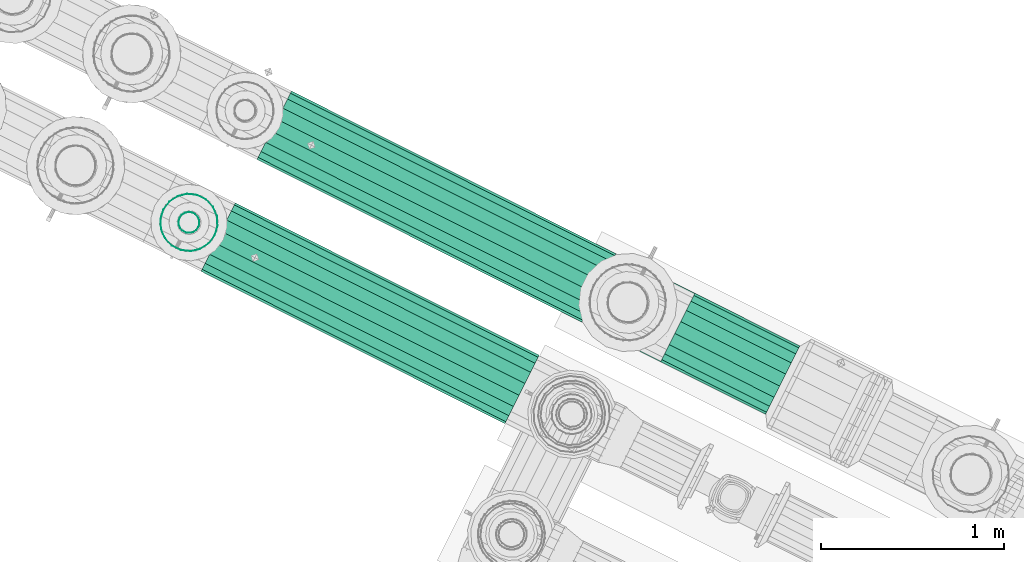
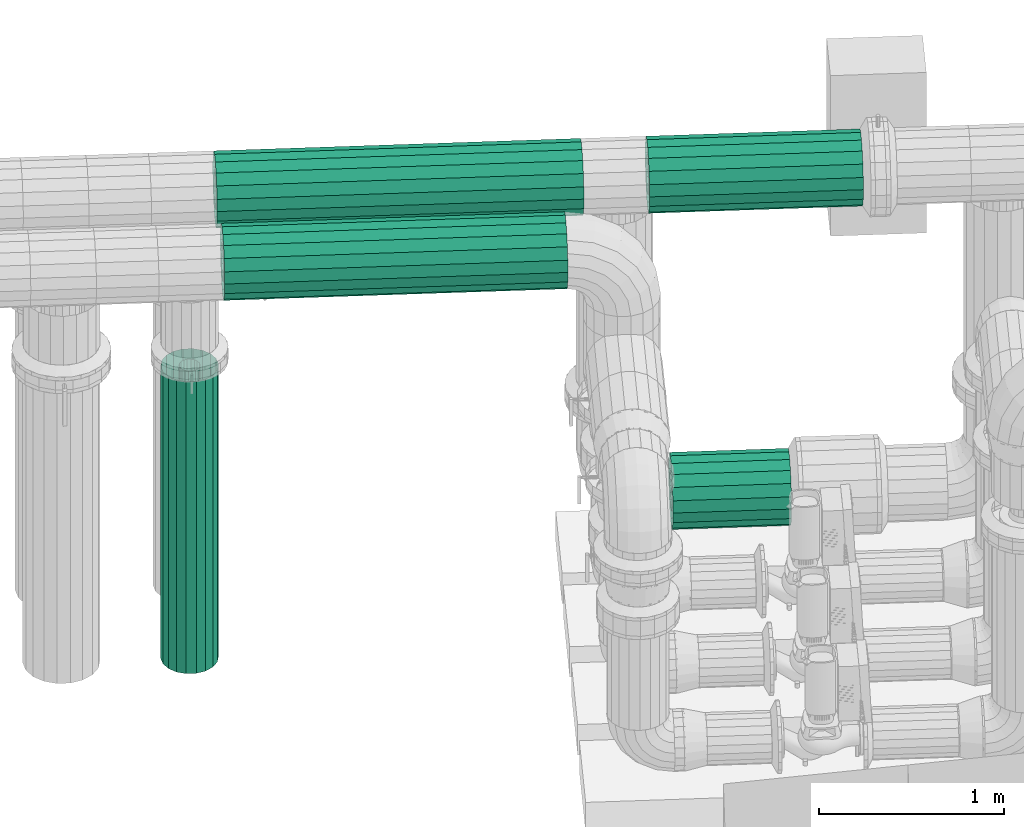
# One storey, part 13 of 152: 5 flow segments.
"""IFC2X3 building model written with IfcOpenShell, lengths in metres."""

from ifc_helpers import new_model, si_unit, derived_unit, direction, frame, origin, place, context, subcontext, project, spatial, face_set, surface_model, source, transform, mapped, material, type_object, type_shapes, element, save


model = new_model("IFC2X3")

# Units and contexts
model_context = context("Model", 3, precision=5.2338327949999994e-05, world=origin(), true_north=direction((0.0, 1.0)))
body_context = subcontext(model_context, "Body", "Model", "MODEL_VIEW")
ifc_project = project(units=[si_unit("LENGTHUNIT", "METRE"), si_unit("AREAUNIT", "SQUARE_METRE"), si_unit("VOLUMEUNIT", "CUBIC_METRE"), si_unit("MASSUNIT", "GRAM", prefix="KILO"), si_unit("PLANEANGLEUNIT", "RADIAN"), derived_unit("THERMALTRANSMITTANCEUNIT", [(si_unit("MASSUNIT", "GRAM", prefix="KILO"), 1), (si_unit("THERMODYNAMICTEMPERATUREUNIT", "KELVIN"), -1), (si_unit("TIMEUNIT", "SECOND"), -3)])], contexts=[model_context])

# Site, building, storey
site_placement = place(None, frame((0.0, 0.0, 0.0), z_axis=(0.0, 0.0, 1.0), x_axis=(0.8939966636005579, -0.4480736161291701, 0.0)))
site = spatial("IfcSite", under=ifc_project, at=site_placement, Name="Default", CompositionType="ELEMENT")
building_placement = place(site_placement, origin())
building = spatial("IfcBuilding", under=site, at=building_placement, CompositionType="ELEMENT")
storey_placement = place(building_placement, frame((0.0, 0.0, 2.7499999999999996)))
storey = spatial("IfcBuildingStorey", under=building, at=storey_placement, Name="1. Obergeschoss", CompositionType="ELEMENT", Elevation=2.7499999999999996)

# Flow segments
ifc_material_1 = material(Name="IfcSurfaceStyle #1741")
distribution_element_type_1 = type_object("IfcDistributionElementType", Name="Stahlrohr nach DIN 2448 224428:Stahlrohr nach DIN 2448 224428", material=ifc_material_1)
shared_shape_1 = source(origin(), body_context, "Body", "SurfaceModel", [
    surface_model("IfcFaceBasedSurfaceModel", [(9.803770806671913, 8.121758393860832, 5.553028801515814), (9.803770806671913, 8.11515172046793, 5.590497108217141), (10.962653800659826, 8.115151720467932, 5.590497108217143), (10.962653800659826, 8.121758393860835, 5.553028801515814), (9.803770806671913, 8.096128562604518, 5.623446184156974), (10.962653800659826, 8.09612856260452, 5.623446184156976), (9.803770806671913, 8.066983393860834, 5.647901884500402), (10.962653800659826, 8.066983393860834, 5.647901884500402), (9.803770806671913, 8.03123155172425, 5.660914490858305), (10.962653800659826, 8.031231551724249, 5.660914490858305), (9.803770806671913, 7.9931852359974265, 5.660914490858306), (10.962653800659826, 7.993185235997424, 5.660914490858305), (9.803770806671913, 7.9574333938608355, 5.6479018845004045), (10.962653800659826, 7.957433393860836, 5.647901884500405), (9.803770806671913, 7.928288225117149, 5.623446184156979), (10.962653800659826, 7.92828822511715, 5.623446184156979), (9.803770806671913, 7.909265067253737, 5.590497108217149), (10.962653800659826, 7.909265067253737, 5.590497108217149), (9.803770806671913, 7.902658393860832, 5.553028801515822), (10.962653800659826, 7.902658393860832, 5.553028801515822), (9.803770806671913, 7.909265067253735, 5.515560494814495), (10.962653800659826, 7.909265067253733, 5.515560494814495), (9.803770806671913, 7.928288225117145, 5.482611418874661), (10.962653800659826, 7.928288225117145, 5.4826114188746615), (9.803770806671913, 7.957433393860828, 5.458155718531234), (10.962653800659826, 7.957433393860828, 5.458155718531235), (9.803770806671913, 7.993185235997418, 5.445143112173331), (10.962653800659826, 7.993185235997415, 5.445143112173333), (9.803770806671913, 8.031231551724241, 5.44514311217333), (10.962653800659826, 8.031231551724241, 5.44514311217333), (9.803770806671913, 8.066983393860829, 5.458155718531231), (10.962653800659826, 8.066983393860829, 5.4581557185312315), (9.803770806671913, 8.096128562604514, 5.482611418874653), (10.962653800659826, 8.096128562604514, 5.482611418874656), (9.803770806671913, 8.115151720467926, 5.515560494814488), (10.962653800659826, 8.115151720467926, 5.515560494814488), (9.803770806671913, 8.221758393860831, 5.553028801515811), (9.803770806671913, 8.209120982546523, 5.6246991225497), (10.962653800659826, 8.209120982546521, 5.624699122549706), (10.962653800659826, 8.221758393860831, 5.553028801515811), (9.803770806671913, 8.172733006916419, 5.687724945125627), (10.962653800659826, 8.172733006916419, 5.687724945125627), (9.803770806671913, 8.116983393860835, 5.734504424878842), (10.962653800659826, 8.116983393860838, 5.7345044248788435), (9.803770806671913, 8.048596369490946, 5.759395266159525), (10.962653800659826, 8.048596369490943, 5.759395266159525), (9.803770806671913, 7.975820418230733, 5.759395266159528), (10.962653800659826, 7.975820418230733, 5.759395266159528), (9.803770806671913, 7.90743339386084, 5.7345044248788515), (10.962653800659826, 7.90743339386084, 5.7345044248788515), (9.803770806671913, 7.851683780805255, 5.687724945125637), (10.962653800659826, 7.851683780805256, 5.6877249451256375), (9.803770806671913, 7.815295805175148, 5.6246991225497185), (10.962653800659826, 7.815295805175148, 5.624699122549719), (9.803770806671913, 7.802658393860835, 5.553028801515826), (10.962653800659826, 7.802658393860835, 5.553028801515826), (9.803770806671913, 7.815295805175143, 5.48135848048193), (10.962653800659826, 7.815295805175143, 5.481358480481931), (9.803770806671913, 7.851683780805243, 5.418332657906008), (10.962653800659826, 7.851683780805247, 5.418332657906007), (9.803770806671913, 7.907433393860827, 5.3715531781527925), (10.962653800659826, 7.907433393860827, 5.3715531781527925), (9.803770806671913, 7.97582041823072, 5.346662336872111), (10.962653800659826, 7.975820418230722, 5.34666233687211), (9.803770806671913, 8.04859636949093, 5.346662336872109), (10.962653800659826, 8.04859636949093, 5.346662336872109), (9.803770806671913, 8.116983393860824, 5.3715531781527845), (10.962653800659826, 8.116983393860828, 5.3715531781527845), (9.803770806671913, 8.172733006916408, 5.418332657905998), (10.962653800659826, 8.172733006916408, 5.418332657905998), (9.803770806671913, 8.209120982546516, 5.4813584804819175), (10.962653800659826, 8.209120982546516, 5.4813584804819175)], [face_set([[[0, 1, 2, 3]], [[1, 4, 5, 2]], [[4, 6, 7, 5]], [[6, 8, 9, 7]], [[8, 10, 11, 9]], [[10, 12, 13, 11]], [[12, 14, 15, 13]], [[14, 16, 17, 15]], [[16, 18, 19, 17]], [[18, 20, 21, 19]], [[20, 22, 23, 21]], [[22, 24, 25, 23]], [[24, 26, 27, 25]], [[26, 28, 29, 27]], [[28, 30, 31, 29]], [[30, 32, 33, 31]], [[32, 34, 35, 33]], [[34, 0, 3, 35]], [[36, 37, 38, 39]], [[37, 40, 41, 38]], [[40, 42, 43, 41]], [[42, 44, 45, 43]], [[44, 46, 47, 45]], [[46, 48, 49, 47]], [[48, 50, 51, 49]], [[50, 52, 53, 51]], [[52, 54, 55, 53]], [[54, 56, 57, 55]], [[56, 58, 59, 57]], [[58, 60, 61, 59]], [[60, 62, 63, 61]], [[62, 64, 65, 63]], [[64, 66, 67, 65]], [[66, 68, 69, 67]], [[68, 70, 71, 69]], [[70, 36, 39, 71]]])]),
])
type_shapes(distribution_element_type_1, [shared_shape_1])
flow_segment_1_placement = place(storey_placement, frame((0.0, 0.0, -2.7499999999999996)))
element("IfcFlowSegment", 1, at=flow_segment_1_placement, inside=storey, type_object=distribution_element_type_1, material=ifc_material_1, Name="Stahlrohr nach DIN 2448", ObjectType="Stahlrohr nach DIN 2448", context=body_context, shape_type="MappedRepresentation", body=[
    mapped(shared_shape_1, transform((0.0, 0.0, 0.0), scale=1.0)),
])
distribution_element_type_2 = type_object("IfcDistributionElementType", Name="Stahlrohr nach DIN 2448 224709:Stahlrohr nach DIN 2448 224709", material=ifc_material_1)
shared_shape_2 = source(origin(), body_context, "Body", "SurfaceModel", [
    surface_model("IfcFaceBasedSurfaceModel", [(9.930770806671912, 7.902658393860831, 3.459870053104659), (9.930770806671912, 7.909265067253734, 3.422401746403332), (10.573653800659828, 7.909265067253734, 3.422401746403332), (10.573653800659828, 7.902658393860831, 3.459870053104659), (9.930770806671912, 7.928288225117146, 3.389452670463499), (10.573653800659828, 7.928288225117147, 3.3894526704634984), (9.930770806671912, 7.957433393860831, 3.3649969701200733), (10.573653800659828, 7.957433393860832, 3.3649969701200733), (9.930770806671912, 7.993185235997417, 3.351984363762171), (10.573653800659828, 7.9931852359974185, 3.3519843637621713), (9.930770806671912, 8.03123155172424, 3.351984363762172), (10.573653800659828, 8.031231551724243, 3.351984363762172), (9.930770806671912, 8.06698339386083, 3.3649969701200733), (10.573653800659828, 8.06698339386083, 3.3649969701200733), (9.930770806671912, 8.096128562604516, 3.3894526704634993), (10.573653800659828, 8.096128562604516, 3.3894526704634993), (9.930770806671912, 8.115151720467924, 3.4224017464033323), (10.573653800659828, 8.115151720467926, 3.4224017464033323), (9.930770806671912, 8.121758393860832, 3.4598700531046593), (10.573653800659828, 8.121758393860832, 3.4598700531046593), (9.930770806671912, 8.115151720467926, 3.4973383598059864), (10.573653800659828, 8.115151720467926, 3.497338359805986), (9.930770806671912, 8.096128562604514, 3.5302874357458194), (10.573653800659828, 8.096128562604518, 3.5302874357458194), (9.930770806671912, 8.06698339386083, 3.554743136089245), (10.573653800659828, 8.06698339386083, 3.554743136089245), (9.930770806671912, 8.031231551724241, 3.567755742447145), (10.573653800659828, 8.031231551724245, 3.567755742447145), (9.930770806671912, 7.9931852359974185, 3.5677557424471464), (10.573653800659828, 7.9931852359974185, 3.5677557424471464), (9.930770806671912, 7.957433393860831, 3.554743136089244), (10.573653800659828, 7.957433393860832, 3.554743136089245), (9.930770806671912, 7.928288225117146, 3.53028743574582), (10.573653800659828, 7.928288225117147, 3.5302874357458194), (9.930770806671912, 7.909265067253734, 3.497338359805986), (10.573653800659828, 7.909265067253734, 3.497338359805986), (9.930770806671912, 7.802658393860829, 3.459870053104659), (9.930770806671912, 7.81529580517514, 3.3881997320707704), (10.573653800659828, 7.815295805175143, 3.3881997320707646), (10.573653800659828, 7.802658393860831, 3.459870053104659), (9.930770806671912, 7.8516837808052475, 3.325173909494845), (10.573653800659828, 7.851683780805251, 3.3251739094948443), (9.930770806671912, 7.907433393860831, 3.2783944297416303), (10.573653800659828, 7.907433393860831, 3.2783944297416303), (9.930770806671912, 7.975820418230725, 3.2535035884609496), (10.573653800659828, 7.975820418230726, 3.2535035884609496), (9.930770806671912, 8.048596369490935, 3.253503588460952), (10.573653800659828, 8.048596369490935, 3.2535035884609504), (9.930770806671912, 8.11698339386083, 3.2783944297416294), (10.573653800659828, 8.11698339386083, 3.2783944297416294), (9.930770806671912, 8.172733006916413, 3.3251739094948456), (10.573653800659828, 8.172733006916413, 3.3251739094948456), (9.930770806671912, 8.209120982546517, 3.3881997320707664), (10.573653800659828, 8.209120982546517, 3.3881997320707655), (9.930770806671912, 8.22175839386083, 3.4598700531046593), (10.573653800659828, 8.22175839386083, 3.4598700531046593), (9.930770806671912, 8.20912098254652, 3.531540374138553), (10.573653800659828, 8.209120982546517, 3.5315403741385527), (9.930770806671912, 8.172733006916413, 3.5945661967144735), (10.573653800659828, 8.172733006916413, 3.5945661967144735), (9.930770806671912, 8.11698339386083, 3.641345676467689), (10.573653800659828, 8.11698339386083, 3.6413456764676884), (9.930770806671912, 8.048596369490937, 3.666236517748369), (10.573653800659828, 8.048596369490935, 3.6662365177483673), (9.930770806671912, 7.975820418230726, 3.6662365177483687), (10.573653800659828, 7.975820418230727, 3.6662365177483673), (9.930770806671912, 7.90743339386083, 3.6413456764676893), (10.573653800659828, 7.907433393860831, 3.6413456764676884), (9.930770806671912, 7.8516837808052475, 3.5945661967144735), (10.573653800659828, 7.85168378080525, 3.594566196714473), (9.930770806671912, 7.815295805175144, 3.531540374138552), (10.573653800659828, 7.815295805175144, 3.531540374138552)], [face_set([[[0, 1, 2, 3]], [[1, 4, 5, 2]], [[4, 6, 7, 5]], [[6, 8, 9, 7]], [[8, 10, 11, 9]], [[10, 12, 13, 11]], [[12, 14, 15, 13]], [[14, 16, 17, 15]], [[16, 18, 19, 17]], [[18, 20, 21, 19]], [[20, 22, 23, 21]], [[22, 24, 25, 23]], [[24, 26, 27, 25]], [[26, 28, 29, 27]], [[28, 30, 31, 29]], [[30, 32, 33, 31]], [[32, 34, 35, 33]], [[34, 0, 3, 35]], [[36, 37, 38, 39]], [[37, 40, 41, 38]], [[40, 42, 43, 41]], [[42, 44, 45, 43]], [[44, 46, 47, 45]], [[46, 48, 49, 47]], [[48, 50, 51, 49]], [[50, 52, 53, 51]], [[52, 54, 55, 53]], [[54, 56, 57, 55]], [[56, 58, 59, 57]], [[58, 60, 61, 59]], [[60, 62, 63, 61]], [[62, 64, 65, 63]], [[64, 66, 67, 65]], [[66, 68, 69, 67]], [[68, 70, 71, 69]], [[70, 36, 39, 71]]])]),
])
type_shapes(distribution_element_type_2, [shared_shape_2])
flow_segment_2_placement = place(storey_placement, frame((0.0, 0.0, -2.7499999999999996)))
element("IfcFlowSegment", 2, at=flow_segment_2_placement, inside=storey, type_object=distribution_element_type_2, material=ifc_material_1, Name="Stahlrohr nach DIN 2448", ObjectType="Stahlrohr nach DIN 2448", context=body_context, shape_type="MappedRepresentation", body=[
    mapped(shared_shape_2, transform((0.0, 0.0, 0.0), scale=1.0)),
])
ifc_material_2 = material(Name="IfcSurfaceStyle #9317")
distribution_element_type_3 = type_object("IfcDistributionElementType", Name="Stahlrohr nach DIN 2448 240348:Stahlrohr nach DIN 2448 240348", material=ifc_material_2)
shared_shape_3 = source(origin(), body_context, "Body", "SurfaceModel", [
    surface_model("IfcFaceBasedSurfaceModel", [(7.460618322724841, 7.436758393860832, 5.553028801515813), (7.460618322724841, 7.43015172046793, 5.59049710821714), (9.320770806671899, 7.430151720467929, 5.59049710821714), (9.320770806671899, 7.436758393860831, 5.553028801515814), (7.460618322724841, 7.411128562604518, 5.623446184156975), (9.320770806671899, 7.411128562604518, 5.623446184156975), (7.460618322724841, 7.381983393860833, 5.6479018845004), (9.320770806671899, 7.381983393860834, 5.6479018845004), (7.460618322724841, 7.346231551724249, 5.660914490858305), (9.320770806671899, 7.346231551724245, 5.660914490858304), (7.460618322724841, 7.308185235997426, 5.660914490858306), (9.320770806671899, 7.308185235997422, 5.660914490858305), (7.460618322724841, 7.272433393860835, 5.6479018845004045), (9.320770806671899, 7.272433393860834, 5.6479018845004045), (7.460618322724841, 7.243288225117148, 5.623446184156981), (9.320770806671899, 7.243288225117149, 5.623446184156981), (7.460618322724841, 7.224265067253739, 5.590497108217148), (9.320770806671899, 7.224265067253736, 5.590497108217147), (7.460618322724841, 7.217658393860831, 5.553028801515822), (9.320770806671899, 7.217658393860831, 5.553028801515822), (7.460618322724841, 7.224265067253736, 5.515560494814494), (9.320770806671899, 7.224265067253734, 5.515560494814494), (7.460618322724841, 7.243288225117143, 5.482611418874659), (9.320770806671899, 7.243288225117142, 5.4826114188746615), (7.460618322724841, 7.272433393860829, 5.458155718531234), (9.320770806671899, 7.272433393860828, 5.458155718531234), (7.460618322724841, 7.308185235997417, 5.445143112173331), (9.320770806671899, 7.308185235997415, 5.445143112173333), (7.460618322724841, 7.346231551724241, 5.44514311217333), (9.320770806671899, 7.34623155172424, 5.445143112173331), (7.460618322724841, 7.3819833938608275, 5.4581557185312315), (9.320770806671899, 7.3819833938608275, 5.4581557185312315), (7.460618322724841, 7.411128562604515, 5.482611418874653), (9.320770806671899, 7.411128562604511, 5.482611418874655), (7.460618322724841, 7.430151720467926, 5.515560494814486), (9.320770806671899, 7.430151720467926, 5.515560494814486), (7.460618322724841, 7.536758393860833, 5.5530288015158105), (7.460618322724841, 7.524120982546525, 5.6246991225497), (9.320770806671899, 7.524120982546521, 5.624699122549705), (9.320770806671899, 7.53675839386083, 5.553028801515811), (7.460618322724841, 7.48773300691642, 5.687724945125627), (9.320770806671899, 7.487733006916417, 5.687724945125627), (7.460618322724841, 7.431983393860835, 5.734504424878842), (9.320770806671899, 7.431983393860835, 5.734504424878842), (7.460618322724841, 7.363596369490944, 5.759395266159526), (9.320770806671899, 7.363596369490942, 5.759395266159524), (7.460618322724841, 7.290820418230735, 5.759395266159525), (9.320770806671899, 7.290820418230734, 5.759395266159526), (7.460618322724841, 7.222433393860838, 5.734504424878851), (9.320770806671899, 7.222433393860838, 5.734504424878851), (7.460618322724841, 7.166683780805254, 5.687724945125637), (9.320770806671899, 7.166683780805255, 5.6877249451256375), (7.460618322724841, 7.130295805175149, 5.624699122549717), (9.320770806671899, 7.130295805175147, 5.624699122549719), (7.460618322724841, 7.117658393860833, 5.553028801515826), (9.320770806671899, 7.1176583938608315, 5.553028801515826), (7.460618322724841, 7.130295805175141, 5.48135848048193), (9.320770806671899, 7.130295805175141, 5.48135848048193), (7.460618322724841, 7.1666837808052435, 5.418332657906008), (9.320770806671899, 7.166683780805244, 5.418332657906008), (7.460618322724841, 7.222433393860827, 5.371553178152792), (9.320770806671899, 7.222433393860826, 5.3715531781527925), (7.460618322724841, 7.2908204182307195, 5.346662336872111), (9.320770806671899, 7.2908204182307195, 5.346662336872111), (7.460618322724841, 7.363596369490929, 5.346662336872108), (9.320770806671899, 7.363596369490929, 5.346662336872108), (7.460618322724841, 7.431983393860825, 5.371553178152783), (9.320770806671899, 7.431983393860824, 5.3715531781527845), (7.460618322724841, 7.487733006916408, 5.4183326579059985), (9.320770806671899, 7.487733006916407, 5.418332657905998), (7.460618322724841, 7.524120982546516, 5.4813584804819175), (9.320770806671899, 7.524120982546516, 5.4813584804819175)], [face_set([[[0, 1, 2, 3]], [[1, 4, 5, 2]], [[4, 6, 7, 5]], [[6, 8, 9, 7]], [[8, 10, 11, 9]], [[10, 12, 13, 11]], [[12, 14, 15, 13]], [[14, 16, 17, 15]], [[16, 18, 19, 17]], [[18, 20, 21, 19]], [[20, 22, 23, 21]], [[22, 24, 25, 23]], [[24, 26, 27, 25]], [[26, 28, 29, 27]], [[28, 30, 31, 29]], [[30, 32, 33, 31]], [[32, 34, 35, 33]], [[34, 0, 3, 35]], [[36, 37, 38, 39]], [[37, 40, 41, 38]], [[40, 42, 43, 41]], [[42, 44, 45, 43]], [[44, 46, 47, 45]], [[46, 48, 49, 47]], [[48, 50, 51, 49]], [[50, 52, 53, 51]], [[52, 54, 55, 53]], [[54, 56, 57, 55]], [[56, 58, 59, 57]], [[58, 60, 61, 59]], [[60, 62, 63, 61]], [[62, 64, 65, 63]], [[64, 66, 67, 65]], [[66, 68, 69, 67]], [[68, 70, 71, 69]], [[70, 36, 39, 71]]])]),
])
type_shapes(distribution_element_type_3, [shared_shape_3])
flow_segment_3_placement = place(storey_placement, frame((0.0, 0.0, -2.7499999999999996)))
element("IfcFlowSegment", 3, at=flow_segment_3_placement, inside=storey, type_object=distribution_element_type_3, material=ifc_material_2, Name="Stahlrohr nach DIN 2448", ObjectType="Stahlrohr nach DIN 2448", context=body_context, shape_type="MappedRepresentation", body=[
    mapped(shared_shape_3, transform((0.0, 0.0, 0.0), scale=1.0)),
])
distribution_element_type_4 = type_object("IfcDistributionElementType", Name="Stahlrohr nach DIN 2448 246640:Stahlrohr nach DIN 2448 246640", material=ifc_material_2)
shared_shape_4 = source(origin(), body_context, "Body", "SurfaceModel", [
    surface_model("IfcFaceBasedSurfaceModel", [(7.3397683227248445, 7.3272083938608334, 4.878622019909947), (7.336321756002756, 7.30766194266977, 4.878622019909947), (7.336321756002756, 7.307661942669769, 2.95), (7.339768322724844, 7.327208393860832, 2.95), (7.326397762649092, 7.290473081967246, 4.878622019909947), (7.32639776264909, 7.290473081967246, 2.95), (7.3111933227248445, 7.2777150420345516, 4.878622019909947), (7.31119332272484, 7.277715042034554, 2.95), (7.292542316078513, 7.270926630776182, 4.878622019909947), (7.292542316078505, 7.2709266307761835, 2.95), (7.27269432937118, 7.270926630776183, 4.878622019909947), (7.272694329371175, 7.270926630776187, 2.95), (7.254043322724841, 7.27771504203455, 4.878622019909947), (7.254043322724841, 7.277715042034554, 2.95), (7.238838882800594, 7.290473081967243, 4.878622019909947), (7.238838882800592, 7.290473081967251, 2.95), (7.228914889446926, 7.307661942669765, 4.878622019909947), (7.228914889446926, 7.307661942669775, 2.95), (7.2254683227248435, 7.327208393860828, 4.878622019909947), (7.225468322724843, 7.327208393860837, 2.95), (7.228914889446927, 7.346754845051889, 4.878622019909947), (7.228914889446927, 7.3467548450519, 2.95), (7.238838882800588, 7.363943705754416, 4.878622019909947), (7.238838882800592, 7.363943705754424, 2.95), (7.254043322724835, 7.376701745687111, 4.878622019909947), (7.254043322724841, 7.376701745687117, 2.95), (7.272694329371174, 7.383490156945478, 4.878622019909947), (7.272694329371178, 7.383490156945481, 2.95), (7.292542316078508, 7.383490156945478, 4.878622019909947), (7.292542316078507, 7.3834901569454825, 2.95), (7.31119332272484, 7.376701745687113, 4.878622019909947), (7.311193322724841, 7.376701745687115, 2.95), (7.326397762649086, 7.363943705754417, 4.878622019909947), (7.3263977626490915, 7.363943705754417, 2.95), (7.336321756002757, 7.346754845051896, 4.878622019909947), (7.336321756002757, 7.346754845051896, 2.95), (7.439768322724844, 7.327208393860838, 4.878622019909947), (7.430291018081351, 7.273459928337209, 4.878622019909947), (7.4302910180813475, 7.273459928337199, 2.95), (7.4397683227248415, 7.327208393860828, 2.95), (7.403002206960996, 7.226194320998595, 4.878622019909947), (7.403002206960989, 7.226194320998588, 2.95), (7.361193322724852, 7.191112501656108, 4.878622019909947), (7.36119332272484, 7.191112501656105, 2.95), (7.309907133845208, 7.172445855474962, 4.878622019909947), (7.309907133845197, 7.172445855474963, 2.95), (7.255329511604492, 7.172445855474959, 4.878622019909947), (7.255329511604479, 7.172445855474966, 2.95), (7.204043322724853, 7.1911125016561, 4.878622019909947), (7.204043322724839, 7.19111250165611, 2.95), (7.162234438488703, 7.226194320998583, 4.878622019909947), (7.162234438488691, 7.226194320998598, 2.95), (7.13494562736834, 7.273459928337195, 4.878622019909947), (7.134945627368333, 7.273459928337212, 2.95), (7.125468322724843, 7.327208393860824, 4.878622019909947), (7.125468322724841, 7.327208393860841, 2.95), (7.134945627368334, 7.380956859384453, 4.878622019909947), (7.134945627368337, 7.38095685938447, 2.95), (7.162234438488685, 7.428222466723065, 4.878622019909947), (7.162234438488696, 7.428222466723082, 2.95), (7.204043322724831, 7.463304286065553, 4.878622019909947), (7.204043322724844, 7.463304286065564, 2.95), (7.255329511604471, 7.4819709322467, 4.878622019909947), (7.255329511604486, 7.481970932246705, 2.95), (7.309907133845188, 7.481970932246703, 4.878622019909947), (7.309907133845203, 7.481970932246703, 2.95), (7.361193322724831, 7.4633042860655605, 4.878622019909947), (7.3611933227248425, 7.463304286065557, 2.95), (7.403002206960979, 7.428222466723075, 4.878622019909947), (7.4030022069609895, 7.42822246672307, 2.95), (7.430291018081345, 7.380956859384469, 4.878622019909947), (7.430291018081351, 7.380956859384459, 2.95)], [face_set([[[0, 1, 2, 3]], [[1, 4, 5, 2]], [[4, 6, 7, 5]], [[6, 8, 9, 7]], [[8, 10, 11, 9]], [[10, 12, 13, 11]], [[12, 14, 15, 13]], [[14, 16, 17, 15]], [[16, 18, 19, 17]], [[18, 20, 21, 19]], [[20, 22, 23, 21]], [[22, 24, 25, 23]], [[24, 26, 27, 25]], [[26, 28, 29, 27]], [[28, 30, 31, 29]], [[30, 32, 33, 31]], [[32, 34, 35, 33]], [[34, 0, 3, 35]], [[36, 37, 38, 39]], [[37, 40, 41, 38]], [[40, 42, 43, 41]], [[42, 44, 45, 43]], [[44, 46, 47, 45]], [[46, 48, 49, 47]], [[48, 50, 51, 49]], [[50, 52, 53, 51]], [[52, 54, 55, 53]], [[54, 56, 57, 55]], [[56, 58, 59, 57]], [[58, 60, 61, 59]], [[60, 62, 63, 61]], [[62, 64, 65, 63]], [[64, 66, 67, 65]], [[66, 68, 69, 67]], [[68, 70, 71, 69]], [[70, 36, 39, 71]]])]),
])
type_shapes(distribution_element_type_4, [shared_shape_4])
flow_segment_4_placement = place(storey_placement, frame((0.0, 0.0, -2.7499999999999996)))
element("IfcFlowSegment", 4, at=flow_segment_4_placement, inside=storey, type_object=distribution_element_type_4, material=ifc_material_2, Name="Stahlrohr nach DIN 2448", ObjectType="Stahlrohr nach DIN 2448", context=body_context, shape_type="MappedRepresentation", body=[
    mapped(shared_shape_4, transform((0.0, 0.0, 0.0), scale=1.0)),
])
distribution_element_type_5 = type_object("IfcDistributionElementType", Name="Stahlrohr nach DIN 2448 246921:Stahlrohr nach DIN 2448 246921", material=ifc_material_1)
shared_shape_5 = source(origin(), body_context, "Body", "SurfaceModel", [
    surface_model("IfcFaceBasedSurfaceModel", [(7.460618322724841, 8.121758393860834, 5.553028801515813), (7.460618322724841, 8.115151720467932, 5.59049710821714), (9.447770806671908, 8.115151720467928, 5.59049710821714), (9.447770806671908, 8.12175839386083, 5.553028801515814), (7.460618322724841, 8.096128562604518, 5.623446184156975), (9.447770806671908, 8.096128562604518, 5.623446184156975), (7.460618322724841, 8.066983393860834, 5.6479018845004), (9.447770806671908, 8.066983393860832, 5.647901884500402), (7.460618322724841, 8.03123155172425, 5.660914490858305), (9.447770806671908, 8.031231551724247, 5.660914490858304), (7.460618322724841, 7.9931852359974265, 5.660914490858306), (9.447770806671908, 7.993185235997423, 5.660914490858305), (7.460618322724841, 7.9574333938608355, 5.6479018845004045), (9.447770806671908, 7.9574333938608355, 5.6479018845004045), (7.460618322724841, 7.928288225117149, 5.623446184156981), (9.447770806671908, 7.928288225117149, 5.623446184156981), (7.460618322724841, 7.909265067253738, 5.590497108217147), (9.447770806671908, 7.909265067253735, 5.590497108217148), (7.460618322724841, 7.902658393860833, 5.553028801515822), (9.447770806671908, 7.902658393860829, 5.553028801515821), (7.460618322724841, 7.909265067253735, 5.515560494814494), (9.447770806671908, 7.909265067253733, 5.515560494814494), (7.460618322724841, 7.928288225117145, 5.482611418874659), (9.447770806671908, 7.928288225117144, 5.482611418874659), (7.460618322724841, 7.957433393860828, 5.458155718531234), (9.447770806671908, 7.957433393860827, 5.458155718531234), (7.460618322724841, 7.993185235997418, 5.445143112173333), (9.447770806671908, 7.993185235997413, 5.445143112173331), (7.460618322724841, 8.031231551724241, 5.44514311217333), (9.447770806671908, 8.03123155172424, 5.445143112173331), (7.460618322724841, 8.066983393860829, 5.4581557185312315), (9.447770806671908, 8.066983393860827, 5.458155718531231), (7.460618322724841, 8.096128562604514, 5.482611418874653), (9.447770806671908, 8.096128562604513, 5.4826114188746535), (7.460618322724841, 8.115151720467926, 5.515560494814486), (9.447770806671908, 8.115151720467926, 5.515560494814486), (7.460618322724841, 8.221758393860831, 5.5530288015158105), (7.460618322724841, 8.209120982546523, 5.6246991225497), (9.447770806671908, 8.20912098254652, 5.624699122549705), (9.447770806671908, 8.22175839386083, 5.5530288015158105), (7.460618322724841, 8.17273300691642, 5.687724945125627), (9.447770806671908, 8.172733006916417, 5.687724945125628), (7.460618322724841, 8.116983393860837, 5.734504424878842), (9.447770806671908, 8.116983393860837, 5.734504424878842), (7.460618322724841, 8.048596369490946, 5.759395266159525), (9.447770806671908, 8.048596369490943, 5.759395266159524), (7.460618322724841, 7.975820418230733, 5.759395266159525), (9.447770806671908, 7.9758204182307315, 5.759395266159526), (7.460618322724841, 7.90743339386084, 5.734504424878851), (9.447770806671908, 7.907433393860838, 5.734504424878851), (7.460618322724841, 7.851683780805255, 5.6877249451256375), (9.447770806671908, 7.851683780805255, 5.6877249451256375), (7.460618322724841, 7.815295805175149, 5.624699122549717), (9.447770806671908, 7.815295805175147, 5.624699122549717), (7.460618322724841, 7.802658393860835, 5.553028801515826), (9.447770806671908, 7.802658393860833, 5.553028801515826), (7.460618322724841, 7.815295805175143, 5.48135848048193), (9.447770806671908, 7.8152958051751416, 5.48135848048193), (7.460618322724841, 7.851683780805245, 5.418332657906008), (9.447770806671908, 7.851683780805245, 5.418332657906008), (7.460618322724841, 7.907433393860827, 5.371553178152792), (9.447770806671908, 7.907433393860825, 5.3715531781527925), (7.460618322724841, 7.97582041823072, 5.346662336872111), (9.447770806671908, 7.97582041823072, 5.346662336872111), (7.460618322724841, 8.04859636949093, 5.346662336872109), (9.447770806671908, 8.048596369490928, 5.346662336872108), (7.460618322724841, 8.116983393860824, 5.371553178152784), (9.447770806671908, 8.116983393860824, 5.371553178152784), (7.460618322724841, 8.172733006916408, 5.4183326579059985), (9.447770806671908, 8.172733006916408, 5.418332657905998), (7.460618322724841, 8.209120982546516, 5.4813584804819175), (9.447770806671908, 8.209120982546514, 5.4813584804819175)], [face_set([[[0, 1, 2, 3]], [[1, 4, 5, 2]], [[4, 6, 7, 5]], [[6, 8, 9, 7]], [[8, 10, 11, 9]], [[10, 12, 13, 11]], [[12, 14, 15, 13]], [[14, 16, 17, 15]], [[16, 18, 19, 17]], [[18, 20, 21, 19]], [[20, 22, 23, 21]], [[22, 24, 25, 23]], [[24, 26, 27, 25]], [[26, 28, 29, 27]], [[28, 30, 31, 29]], [[30, 32, 33, 31]], [[32, 34, 35, 33]], [[34, 0, 3, 35]], [[36, 37, 38, 39]], [[37, 40, 41, 38]], [[40, 42, 43, 41]], [[42, 44, 45, 43]], [[44, 46, 47, 45]], [[46, 48, 49, 47]], [[48, 50, 51, 49]], [[50, 52, 53, 51]], [[52, 54, 55, 53]], [[54, 56, 57, 55]], [[56, 58, 59, 57]], [[58, 60, 61, 59]], [[60, 62, 63, 61]], [[62, 64, 65, 63]], [[64, 66, 67, 65]], [[66, 68, 69, 67]], [[68, 70, 71, 69]], [[70, 36, 39, 71]]])]),
])
type_shapes(distribution_element_type_5, [shared_shape_5])
flow_segment_5_placement = place(storey_placement, frame((0.0, 0.0, -2.7499999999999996)))
element("IfcFlowSegment", 5, at=flow_segment_5_placement, inside=storey, type_object=distribution_element_type_5, material=ifc_material_1, Name="Stahlrohr nach DIN 2448", ObjectType="Stahlrohr nach DIN 2448", context=body_context, shape_type="MappedRepresentation", body=[
    mapped(shared_shape_5, transform((0.0, 0.0, 0.0), scale=1.0)),
])

save(model, "model.ifc")
